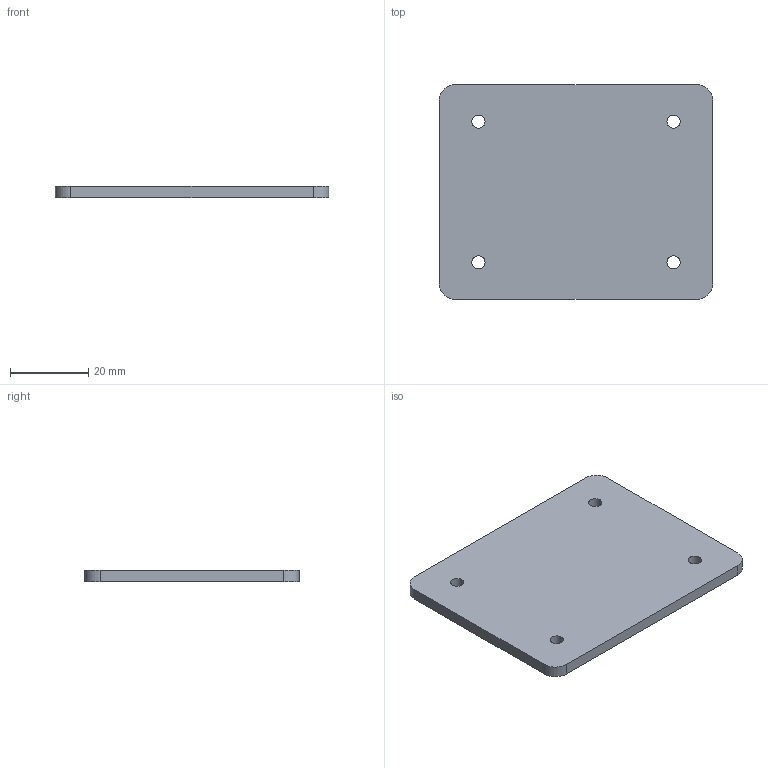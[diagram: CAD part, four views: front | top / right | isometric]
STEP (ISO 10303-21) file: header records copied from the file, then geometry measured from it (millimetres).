
FILE_DESCRIPTION(('Open CASCADE Model'),'2;1');
FILE_NAME('Open CASCADE Shape Model','2026-10-21T22:40:07',('Author'),( 'Open CASCADE'),'Open CASCADE STEP processor 7.8','Open CASCADE 7.8' ,'Unknown');
FILE_SCHEMA(('AUTOMOTIVE_DESIGN { 1 0 10303 214 1 1 1 1 }'));
Length unit declared in the file: millimetre
Products named in the file (1): Open CASCADE STEP translator 7.8 3
Bounding box: 70 x 55 x 3 mm (x, y, z)
Volume: 11399.8 mm3; surface area: 8457.5 mm2
Topology: 1 solids, 1 shells, 14 faces, 36 edges, 24 vertices
Faces by surface type: cylinder 8, plane 6
Full cylindrical faces by diameter (mm): 3.4 x4
Entity records: 966 total; most frequent: CARTESIAN_POINT 219, DIRECTION 142, LINE 76, VECTOR 76, ORIENTED_EDGE 72, PCURVE 72, DEFINITIONAL_REPRESENTATION 72, EDGE_CURVE 36
